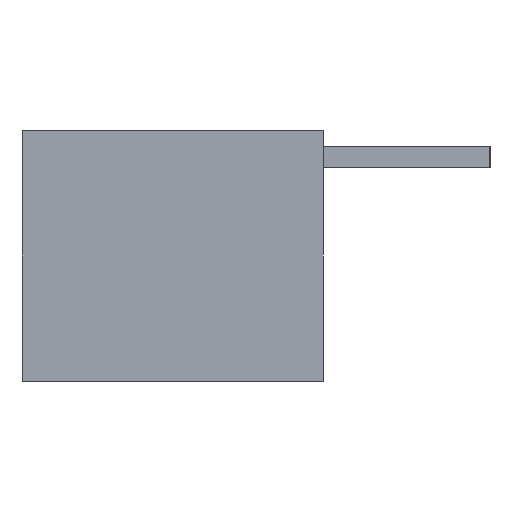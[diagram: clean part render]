
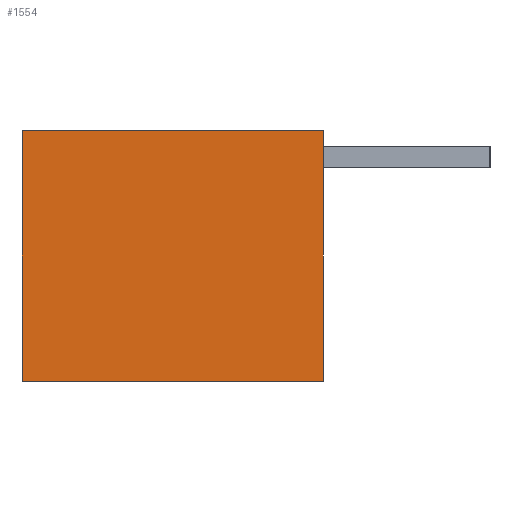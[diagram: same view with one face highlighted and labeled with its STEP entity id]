
A CAD part, left-side view. The second image highlights one B-rep face of the part: STEP entity #1554.
In plain terms, the highlighted planar face has unit normal (-1, 0, 0).
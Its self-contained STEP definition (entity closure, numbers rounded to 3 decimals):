
#125 = EDGE_LOOP ( 'NONE', ( #5121, #6975, #7010, #5037 ) ) ;
#535 = LINE ( 'NONE', #4439, #3148 ) ;
#539 = VECTOR ( 'NONE', #7297, 1000. ) ;
#627 = CARTESIAN_POINT ( 'NONE',  ( 0., 0., -16.2 ) ) ;
#908 = CARTESIAN_POINT ( 'NONE',  ( 0., 0., -16.2 ) ) ;
#1099 = AXIS2_PLACEMENT_3D ( 'NONE', #4434, #6223, #2010 ) ;
#1554 = ADVANCED_FACE ( 'NONE', ( #6901 ), #2528, .F. ) ;
#1570 = VECTOR ( 'NONE', #2478, 1000. ) ;
#1766 = CARTESIAN_POINT ( 'NONE',  ( 0., 19.5, -16.2 ) ) ;
#1772 = LINE ( 'NONE', #627, #1570 ) ;
#2010 = DIRECTION ( 'NONE',  ( 0., 0., -1. ) ) ;
#2424 = VECTOR ( 'NONE', #6245, 1000. ) ;
#2478 = DIRECTION ( 'NONE',  ( 0., 1., 0. ) ) ;
#2528 = PLANE ( 'NONE',  #1099 ) ;
#2783 = VERTEX_POINT ( 'NONE', #6569 ) ;
#3095 = EDGE_CURVE ( 'NONE', #2783, #7463, #6872, .T. ) ;
#3148 = VECTOR ( 'NONE', #5707, 1000. ) ;
#3204 = CARTESIAN_POINT ( 'NONE',  ( 0., 0., -16.2 ) ) ;
#3427 = VERTEX_POINT ( 'NONE', #3529 ) ;
#3529 = CARTESIAN_POINT ( 'NONE',  ( 0., 19.5, 0. ) ) ;
#3825 = LINE ( 'NONE', #1766, #539 ) ;
#4434 = CARTESIAN_POINT ( 'NONE',  ( 0., 0., 0. ) ) ;
#4439 = CARTESIAN_POINT ( 'NONE',  ( 0., 19.5, 0. ) ) ;
#5037 = ORIENTED_EDGE ( 'NONE', *, *, #7212, .F. ) ;
#5121 = ORIENTED_EDGE ( 'NONE', *, *, #7808, .F. ) ;
#5455 = EDGE_CURVE ( 'NONE', #3427, #2783, #535, .T. ) ;
#5707 = DIRECTION ( 'NONE',  ( 0., -1., 0. ) ) ;
#6223 = DIRECTION ( 'NONE',  ( 1., 0., 0. ) ) ;
#6245 = DIRECTION ( 'NONE',  ( 0., 0., -1. ) ) ;
#6569 = CARTESIAN_POINT ( 'NONE',  ( 0., 0., 0. ) ) ;
#6734 = CARTESIAN_POINT ( 'NONE',  ( 0., 19.5, -16.2 ) ) ;
#6872 = LINE ( 'NONE', #3204, #2424 ) ;
#6901 = FACE_OUTER_BOUND ( 'NONE', #125, .T. ) ;
#6975 = ORIENTED_EDGE ( 'NONE', *, *, #3095, .F. ) ;
#7010 = ORIENTED_EDGE ( 'NONE', *, *, #5455, .F. ) ;
#7212 = EDGE_CURVE ( 'NONE', #7682, #3427, #3825, .T. ) ;
#7297 = DIRECTION ( 'NONE',  ( 0., 0., 1. ) ) ;
#7463 = VERTEX_POINT ( 'NONE', #908 ) ;
#7682 = VERTEX_POINT ( 'NONE', #6734 ) ;
#7808 = EDGE_CURVE ( 'NONE', #7463, #7682, #1772, .T. ) ;
